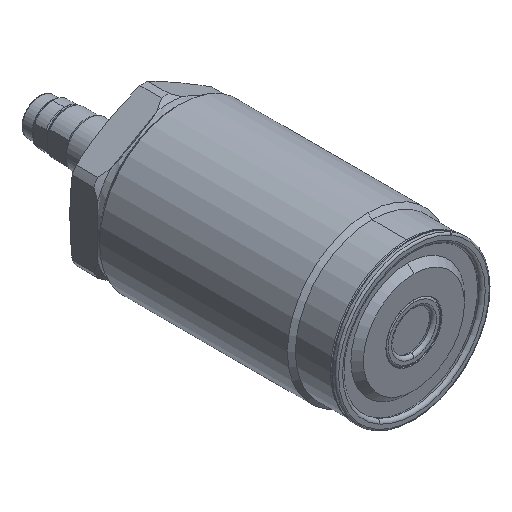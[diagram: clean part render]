
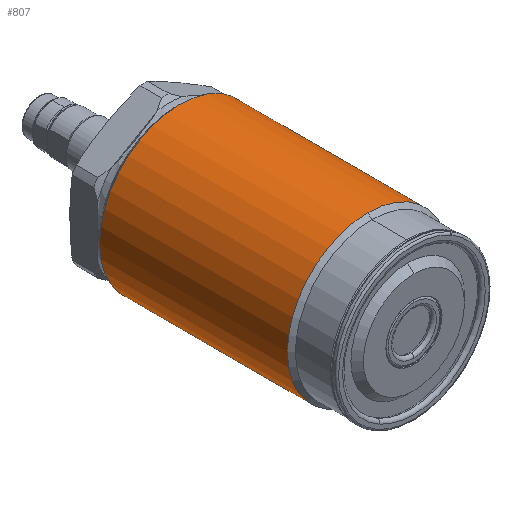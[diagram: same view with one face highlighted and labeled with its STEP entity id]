
A CAD part, isometric view. The second image highlights one B-rep face of the part: STEP entity #807.
In plain terms, the highlighted cylindrical face has radius 18 mm (diameter 36 mm), a full revolution.
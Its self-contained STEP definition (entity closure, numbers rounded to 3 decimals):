
#400=FACE_BOUND('',#1236,.T.);
#401=FACE_BOUND('',#1237,.T.);
#459=CYLINDRICAL_SURFACE('',#3392,18.);
#537=LINE('',#5137,#662);
#538=LINE('',#5142,#663);
#662=VECTOR('',#4044,1.);
#663=VECTOR('',#4047,1.);
#807=ADVANCED_FACE('',(#400,#401),#459,.T.);
#1236=EDGE_LOOP('',(#1645));
#1237=EDGE_LOOP('',(#1646,#1647,#1648,#1649,#1650,#1651));
#1645=ORIENTED_EDGE('',*,*,#2687,.T.);
#1646=ORIENTED_EDGE('',*,*,#2688,.T.);
#1647=ORIENTED_EDGE('',*,*,#2688,.F.);
#1648=ORIENTED_EDGE('',*,*,#2689,.T.);
#1649=ORIENTED_EDGE('',*,*,#2690,.T.);
#1650=ORIENTED_EDGE('',*,*,#2690,.F.);
#1651=ORIENTED_EDGE('',*,*,#2691,.T.);
#2373=VERTEX_POINT('',#5136);
#2374=VERTEX_POINT('',#5138);
#2375=VERTEX_POINT('',#5139);
#2376=VERTEX_POINT('',#5141);
#2377=VERTEX_POINT('',#5143);
#2687=EDGE_CURVE('',#2373,#2373,#3073,.T.);
#2688=EDGE_CURVE('',#2374,#2375,#537,.T.);
#2689=EDGE_CURVE('',#2374,#2376,#3074,.T.);
#2690=EDGE_CURVE('',#2376,#2377,#538,.T.);
#2691=EDGE_CURVE('',#2376,#2374,#3075,.T.);
#3073=CIRCLE('',#3389,18.);
#3074=CIRCLE('',#3390,18.);
#3075=CIRCLE('',#3391,18.);
#3389=AXIS2_PLACEMENT_3D('',#5135,#4042,#4043);
#3390=AXIS2_PLACEMENT_3D('',#5140,#4045,#4046);
#3391=AXIS2_PLACEMENT_3D('',#5144,#4048,#4049);
#3392=AXIS2_PLACEMENT_3D('',#5145,#4050,#4051);
#4042=DIRECTION('',(0.,-1.,0.));
#4043=DIRECTION('',(0.,0.,1.));
#4044=DIRECTION('',(0.,1.,0.));
#4045=DIRECTION('',(0.,1.,0.));
#4046=DIRECTION('',(0.,0.,1.));
#4047=DIRECTION('',(0.,1.,0.));
#4048=DIRECTION('',(0.,1.,0.));
#4049=DIRECTION('',(0.,0.,1.));
#4050=DIRECTION('',(0.,1.,0.));
#4051=DIRECTION('',(0.,0.,1.));
#5135=CARTESIAN_POINT('',(0.,52.3,0.));
#5136=CARTESIAN_POINT('',(0.,52.3,18.));
#5137=CARTESIAN_POINT('',(0.,64.3,18.));
#5138=CARTESIAN_POINT('',(0.,10.3,18.));
#5139=CARTESIAN_POINT('',(0.,48.881,18.));
#5140=CARTESIAN_POINT('',(0.,10.3,0.));
#5141=CARTESIAN_POINT('',(0.,10.3,-18.));
#5142=CARTESIAN_POINT('',(0.,64.3,-18.));
#5143=CARTESIAN_POINT('',(0.,48.881,-18.));
#5144=CARTESIAN_POINT('',(0.,10.3,0.));
#5145=CARTESIAN_POINT('',(0.,64.3,0.));
